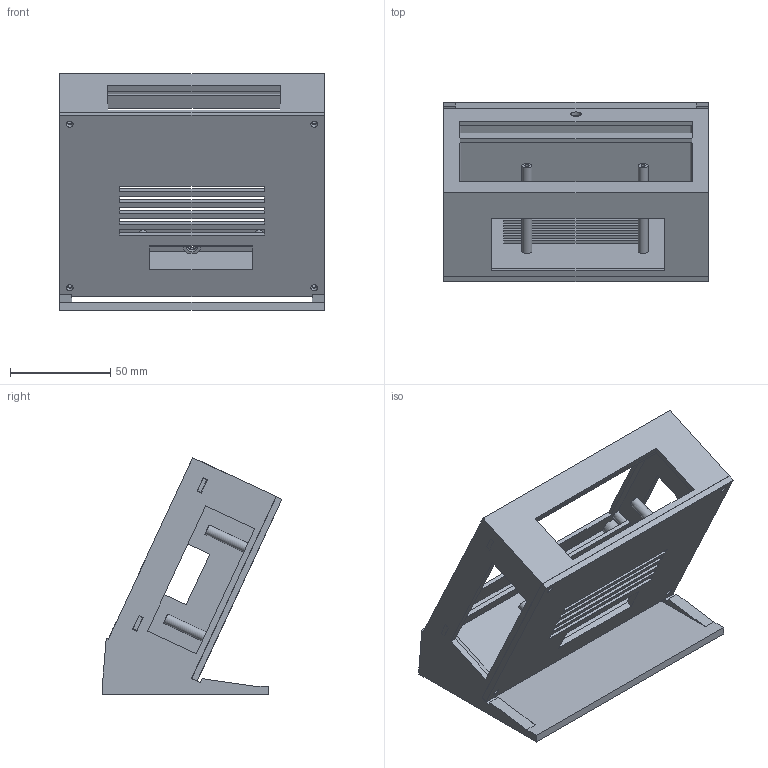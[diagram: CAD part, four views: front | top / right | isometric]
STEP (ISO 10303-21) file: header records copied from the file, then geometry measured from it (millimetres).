
FILE_DESCRIPTION(('Open CASCADE Model'),'2;1');
FILE_NAME('Open CASCADE Shape Model','2026-11-04T16:23:17',('Author'),( 'Open CASCADE'),'Open CASCADE STEP processor 7.8','Open CASCADE 7.8' ,'Unknown');
FILE_SCHEMA(('AUTOMOTIVE_DESIGN { 1 0 10303 214 1 1 1 1 }'));
Length unit declared in the file: millimetre
Products named in the file (5): f3b57822-d895-11f1-aa37-d12594824cfb; HousingFinal; RearCover; ScreenRetainer0; ScreenRetainer1
Assembly tree (4 placements, depth 2):
  f3b57822-d895-11f1-aa37-d12594824cfb
    HousingFinal
    RearCover
    ScreenRetainer0
    ScreenRetainer1
Bounding box: 132 x 89.67 x 118.07 mm (x, y, z)
Volume: 152050.3 mm3; surface area: 103114.4 mm2
Topology: 4 solids, 4 shells, 158 faces, 406 edges, 272 vertices
Faces by surface type: plane 123, cylinder 35
Full cylindrical faces by diameter (mm): 2.1 x4, 2.5 x8, 3.4 x8, 5 x4, 5.3 x1, 6.2 x1
Entity records: 10215 total; most frequent: CARTESIAN_POINT 1789, DIRECTION 1542, LINE 1006, VECTOR 1006, ORIENTED_EDGE 812, PCURVE 812, DEFINITIONAL_REPRESENTATION 812, EDGE_CURVE 406
